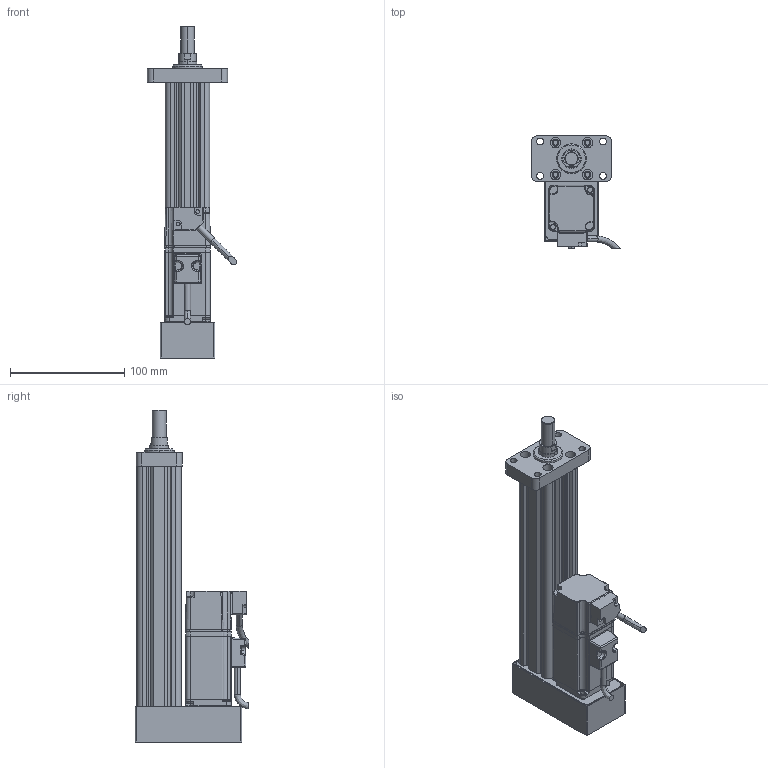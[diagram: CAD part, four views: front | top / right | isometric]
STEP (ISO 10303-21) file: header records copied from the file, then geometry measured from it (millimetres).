
FILE_DESCRIPTION (( 'STEP AP214' ), '1' );
FILE_NAME ('039-S150-D02-B-M3-C1-2.STEP', '2021-02-25T08:41:14', ( '' ), ( '' ), 'SwSTEP 2.0', 'SolidWorks 2018', '' );
FILE_SCHEMA (( 'AUTOMOTIVE_DESIGN' ));
Length unit declared in the file: millimetre
Products named in the file (7): CMC039-LJB; CMC039-GT; CMC039-XT; CMC039-FL; 039-S150-D02-B-M3-C1-2; ECMA-CX0401ES-40框號系列機種-100W低慣量系列; CMC039-DT
Assembly tree (6 placements, depth 2):
  039-S150-D02-B-M3-C1-2
    CMC039-GT
    CMC039-LJB
    CMC039-XT
    CMC039-FL
    CMC039-DT
    ECMA-CX0401ES-40框號系列機種-100W低慣量系列
Bounding box: 77.84 x 99.39 x 290 mm (x, y, z)
Volume: 437511.9 mm3; surface area: 147989.6 mm2
Topology: 6 solids, 14 shells, 615 faces, 1596 edges, 991 vertices
Faces by surface type: cylinder 250, plane 240, bspline 84, cone 41
Entity records: 24778 total; most frequent: CARTESIAN_POINT 10693, ORIENTED_EDGE 3126, DIRECTION 2457, EDGE_CURVE 1563, VERTEX_POINT 991, AXIS2_PLACEMENT_3D 842, LINE 773, VECTOR 773
